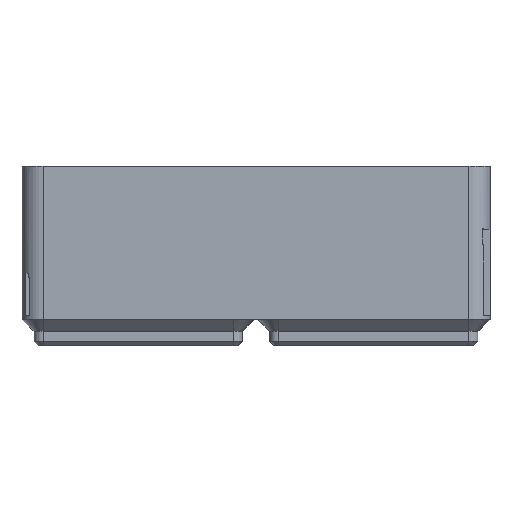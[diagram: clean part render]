
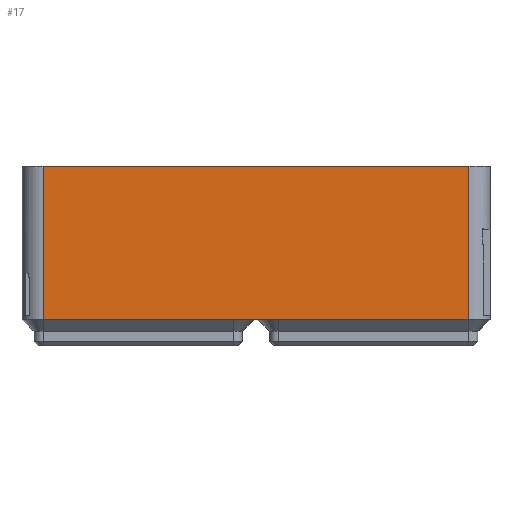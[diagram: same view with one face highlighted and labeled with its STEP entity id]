
A CAD part, left-side view. The second image highlights one B-rep face of the part: STEP entity #17.
In plain terms, the highlighted planar face has unit normal (-1, 0, 0).
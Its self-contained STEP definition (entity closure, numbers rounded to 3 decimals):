
#17 = ADVANCED_FACE('',(#18),#32,.T.);
#18 = FACE_BOUND('',#19,.T.);
#19 = EDGE_LOOP('',(#20,#55,#78,#106,#134,#157));
#20 = ORIENTED_EDGE('',*,*,#21,.T.);
#21 = EDGE_CURVE('',#22,#24,#26,.T.);
#22 = VERTEX_POINT('',#23);
#23 = CARTESIAN_POINT('',(-20.75,-38.,4.74));
#24 = VERTEX_POINT('',#25);
#25 = CARTESIAN_POINT('',(-20.75,-38.,4.75));
#26 = SURFACE_CURVE('',#27,(#31,#43),.PCURVE_S1.);
#27 = LINE('',#28,#29);
#28 = CARTESIAN_POINT('',(-20.75,-38.,4.74));
#29 = VECTOR('',#30,1.);
#30 = DIRECTION('',(0.,0.,1.));
#31 = PCURVE('',#32,#37);
#32 = PLANE('',#33);
#33 = AXIS2_PLACEMENT_3D('',#34,#35,#36);
#34 = CARTESIAN_POINT('',(-20.75,-38.,4.74));
#35 = DIRECTION('',(-1.,0.,0.));
#36 = DIRECTION('',(0.,1.,0.));
#37 = DEFINITIONAL_REPRESENTATION('',(#38),#42);
#38 = LINE('',#39,#40);
#39 = CARTESIAN_POINT('',(0.,0.));
#40 = VECTOR('',#41,1.);
#41 = DIRECTION('',(0.,-1.));
#42 = ( GEOMETRIC_REPRESENTATION_CONTEXT(2) 
PARAMETRIC_REPRESENTATION_CONTEXT() REPRESENTATION_CONTEXT('2D SPACE',''
  ) );
#43 = PCURVE('',#44,#49);
#44 = CYLINDRICAL_SURFACE('',#45,3.75);
#45 = AXIS2_PLACEMENT_3D('',#46,#47,#48);
#46 = CARTESIAN_POINT('',(-17.,-38.,4.74));
#47 = DIRECTION('',(0.,0.,-1.));
#48 = DIRECTION('',(-1.,0.,0.));
#49 = DEFINITIONAL_REPRESENTATION('',(#50),#54);
#50 = LINE('',#51,#52);
#51 = CARTESIAN_POINT('',(6.283,0.));
#52 = VECTOR('',#53,1.);
#53 = DIRECTION('',(0.,-1.));
#54 = ( GEOMETRIC_REPRESENTATION_CONTEXT(2) 
PARAMETRIC_REPRESENTATION_CONTEXT() REPRESENTATION_CONTEXT('2D SPACE',''
  ) );
#55 = ORIENTED_EDGE('',*,*,#56,.T.);
#56 = EDGE_CURVE('',#24,#57,#59,.T.);
#57 = VERTEX_POINT('',#58);
#58 = CARTESIAN_POINT('',(-20.75,-38.,32.1));
#59 = SURFACE_CURVE('',#60,(#64,#71),.PCURVE_S1.);
#60 = LINE('',#61,#62);
#61 = CARTESIAN_POINT('',(-20.75,-38.,4.74));
#62 = VECTOR('',#63,1.);
#63 = DIRECTION('',(0.,0.,1.));
#64 = PCURVE('',#32,#65);
#65 = DEFINITIONAL_REPRESENTATION('',(#66),#70);
#66 = LINE('',#67,#68);
#67 = CARTESIAN_POINT('',(0.,0.));
#68 = VECTOR('',#69,1.);
#69 = DIRECTION('',(0.,-1.));
#70 = ( GEOMETRIC_REPRESENTATION_CONTEXT(2) 
PARAMETRIC_REPRESENTATION_CONTEXT() REPRESENTATION_CONTEXT('2D SPACE',''
  ) );
#71 = PCURVE('',#44,#72);
#72 = DEFINITIONAL_REPRESENTATION('',(#73),#77);
#73 = LINE('',#74,#75);
#74 = CARTESIAN_POINT('',(6.283,0.));
#75 = VECTOR('',#76,1.);
#76 = DIRECTION('',(0.,-1.));
#77 = ( GEOMETRIC_REPRESENTATION_CONTEXT(2) 
PARAMETRIC_REPRESENTATION_CONTEXT() REPRESENTATION_CONTEXT('2D SPACE',''
  ) );
#78 = ORIENTED_EDGE('',*,*,#79,.T.);
#79 = EDGE_CURVE('',#57,#80,#82,.T.);
#80 = VERTEX_POINT('',#81);
#81 = CARTESIAN_POINT('',(-20.75,38.,32.1));
#82 = SURFACE_CURVE('',#83,(#87,#94),.PCURVE_S1.);
#83 = LINE('',#84,#85);
#84 = CARTESIAN_POINT('',(-20.75,0.,32.1));
#85 = VECTOR('',#86,1.);
#86 = DIRECTION('',(0.,1.,0.));
#87 = PCURVE('',#32,#88);
#88 = DEFINITIONAL_REPRESENTATION('',(#89),#93);
#89 = LINE('',#90,#91);
#90 = CARTESIAN_POINT('',(38.,-27.36));
#91 = VECTOR('',#92,1.);
#92 = DIRECTION('',(1.,0.));
#93 = ( GEOMETRIC_REPRESENTATION_CONTEXT(2) 
PARAMETRIC_REPRESENTATION_CONTEXT() REPRESENTATION_CONTEXT('2D SPACE',''
  ) );
#94 = PCURVE('',#95,#100);
#95 = PLANE('',#96);
#96 = AXIS2_PLACEMENT_3D('',#97,#98,#99);
#97 = CARTESIAN_POINT('',(0.,0.,32.1));
#98 = DIRECTION('',(0.,0.,1.));
#99 = DIRECTION('',(1.,0.,0.));
#100 = DEFINITIONAL_REPRESENTATION('',(#101),#105);
#101 = LINE('',#102,#103);
#102 = CARTESIAN_POINT('',(-20.75,0.));
#103 = VECTOR('',#104,1.);
#104 = DIRECTION('',(0.,1.));
#105 = ( GEOMETRIC_REPRESENTATION_CONTEXT(2) 
PARAMETRIC_REPRESENTATION_CONTEXT() REPRESENTATION_CONTEXT('2D SPACE',''
  ) );
#106 = ORIENTED_EDGE('',*,*,#107,.F.);
#107 = EDGE_CURVE('',#108,#80,#110,.T.);
#108 = VERTEX_POINT('',#109);
#109 = CARTESIAN_POINT('',(-20.75,38.,4.75));
#110 = SURFACE_CURVE('',#111,(#115,#122),.PCURVE_S1.);
#111 = LINE('',#112,#113);
#112 = CARTESIAN_POINT('',(-20.75,38.,4.74));
#113 = VECTOR('',#114,1.);
#114 = DIRECTION('',(0.,0.,1.));
#115 = PCURVE('',#32,#116);
#116 = DEFINITIONAL_REPRESENTATION('',(#117),#121);
#117 = LINE('',#118,#119);
#118 = CARTESIAN_POINT('',(76.,0.));
#119 = VECTOR('',#120,1.);
#120 = DIRECTION('',(0.,-1.));
#121 = ( GEOMETRIC_REPRESENTATION_CONTEXT(2) 
PARAMETRIC_REPRESENTATION_CONTEXT() REPRESENTATION_CONTEXT('2D SPACE',''
  ) );
#122 = PCURVE('',#123,#128);
#123 = CYLINDRICAL_SURFACE('',#124,3.75);
#124 = AXIS2_PLACEMENT_3D('',#125,#126,#127);
#125 = CARTESIAN_POINT('',(-17.,38.,4.74));
#126 = DIRECTION('',(0.,0.,-1.));
#127 = DIRECTION('',(-1.,0.,0.));
#128 = DEFINITIONAL_REPRESENTATION('',(#129),#133);
#129 = LINE('',#130,#131);
#130 = CARTESIAN_POINT('',(0.,0.));
#131 = VECTOR('',#132,1.);
#132 = DIRECTION('',(0.,-1.));
#133 = ( GEOMETRIC_REPRESENTATION_CONTEXT(2) 
PARAMETRIC_REPRESENTATION_CONTEXT() REPRESENTATION_CONTEXT('2D SPACE',''
  ) );
#134 = ORIENTED_EDGE('',*,*,#135,.F.);
#135 = EDGE_CURVE('',#136,#108,#138,.T.);
#136 = VERTEX_POINT('',#137);
#137 = CARTESIAN_POINT('',(-20.75,38.,4.74));
#138 = SURFACE_CURVE('',#139,(#143,#150),.PCURVE_S1.);
#139 = LINE('',#140,#141);
#140 = CARTESIAN_POINT('',(-20.75,38.,4.74));
#141 = VECTOR('',#142,1.);
#142 = DIRECTION('',(0.,0.,1.));
#143 = PCURVE('',#32,#144);
#144 = DEFINITIONAL_REPRESENTATION('',(#145),#149);
#145 = LINE('',#146,#147);
#146 = CARTESIAN_POINT('',(76.,0.));
#147 = VECTOR('',#148,1.);
#148 = DIRECTION('',(0.,-1.));
#149 = ( GEOMETRIC_REPRESENTATION_CONTEXT(2) 
PARAMETRIC_REPRESENTATION_CONTEXT() REPRESENTATION_CONTEXT('2D SPACE',''
  ) );
#150 = PCURVE('',#123,#151);
#151 = DEFINITIONAL_REPRESENTATION('',(#152),#156);
#152 = LINE('',#153,#154);
#153 = CARTESIAN_POINT('',(0.,0.));
#154 = VECTOR('',#155,1.);
#155 = DIRECTION('',(0.,-1.));
#156 = ( GEOMETRIC_REPRESENTATION_CONTEXT(2) 
PARAMETRIC_REPRESENTATION_CONTEXT() REPRESENTATION_CONTEXT('2D SPACE',''
  ) );
#157 = ORIENTED_EDGE('',*,*,#158,.F.);
#158 = EDGE_CURVE('',#22,#136,#159,.T.);
#159 = SURFACE_CURVE('',#160,(#164,#171),.PCURVE_S1.);
#160 = LINE('',#161,#162);
#161 = CARTESIAN_POINT('',(-20.75,0.,4.74));
#162 = VECTOR('',#163,1.);
#163 = DIRECTION('',(0.,1.,0.));
#164 = PCURVE('',#32,#165);
#165 = DEFINITIONAL_REPRESENTATION('',(#166),#170);
#166 = LINE('',#167,#168);
#167 = CARTESIAN_POINT('',(38.,0.));
#168 = VECTOR('',#169,1.);
#169 = DIRECTION('',(1.,0.));
#170 = ( GEOMETRIC_REPRESENTATION_CONTEXT(2) 
PARAMETRIC_REPRESENTATION_CONTEXT() REPRESENTATION_CONTEXT('2D SPACE',''
  ) );
#171 = PCURVE('',#172,#177);
#172 = PLANE('',#173);
#173 = AXIS2_PLACEMENT_3D('',#174,#175,#176);
#174 = CARTESIAN_POINT('',(0.,0.,4.74));
#175 = DIRECTION('',(0.,0.,1.));
#176 = DIRECTION('',(1.,0.,0.));
#177 = DEFINITIONAL_REPRESENTATION('',(#178),#182);
#178 = LINE('',#179,#180);
#179 = CARTESIAN_POINT('',(-20.75,0.));
#180 = VECTOR('',#181,1.);
#181 = DIRECTION('',(0.,1.));
#182 = ( GEOMETRIC_REPRESENTATION_CONTEXT(2) 
PARAMETRIC_REPRESENTATION_CONTEXT() REPRESENTATION_CONTEXT('2D SPACE',''
  ) );
